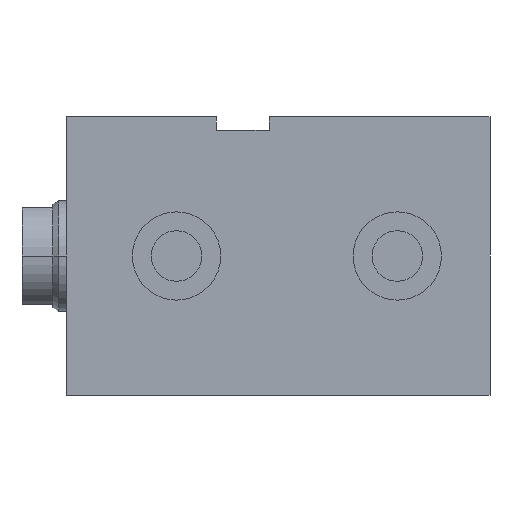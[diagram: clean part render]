
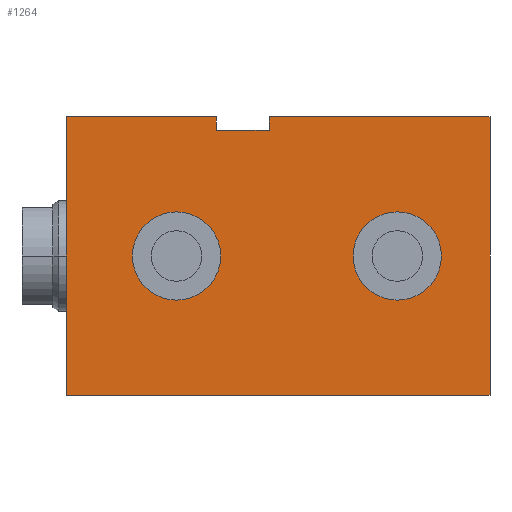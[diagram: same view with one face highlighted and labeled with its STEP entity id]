
A CAD part, left-side view. The second image highlights one B-rep face of the part: STEP entity #1264.
In plain terms, the highlighted planar face has unit normal (-1, 0, 0).
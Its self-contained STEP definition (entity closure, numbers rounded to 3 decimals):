
#7 = VERTEX_POINT ( 'NONE', #92 ) ;
#92 = CARTESIAN_POINT ( 'NONE',  ( -42.5, 21., 10. ) ) ;
#109 = VECTOR ( 'NONE', #635, 1000. ) ;
#118 = CARTESIAN_POINT ( 'NONE',  ( -42.5, 96., 31.5 ) ) ;
#128 = CARTESIAN_POINT ( 'NONE',  ( -42.5, 50., 31.5 ) ) ;
#151 = DIRECTION ( 'NONE',  ( 0., -1., 0. ) ) ;
#244 = ORIENTED_EDGE ( 'NONE', *, *, #420, .F. ) ;
#292 = FACE_BOUND ( 'NONE', #1769, .T. ) ;
#315 = VERTEX_POINT ( 'NONE', #346 ) ;
#326 = EDGE_CURVE ( 'NONE', #2013, #1746, #1220, .T. ) ;
#346 = CARTESIAN_POINT ( 'NONE',  ( -42.5, 50., 28.5 ) ) ;
#367 = DIRECTION ( 'NONE',  ( 0., 0., 1. ) ) ;
#374 = VERTEX_POINT ( 'NONE', #620 ) ;
#388 = CARTESIAN_POINT ( 'NONE',  ( -42.5, 71., 0. ) ) ;
#403 = CIRCLE ( 'NONE', #1675, 10. ) ;
#420 = EDGE_CURVE ( 'NONE', #1802, #2422, #939, .T. ) ;
#421 = EDGE_CURVE ( 'NONE', #2559, #1182, #403, .T. ) ;
#450 = CARTESIAN_POINT ( 'NONE',  ( -42.5, 96., -31.5 ) ) ;
#505 = CARTESIAN_POINT ( 'NONE',  ( -42.5, 0., 31.5 ) ) ;
#510 = LINE ( 'NONE', #525, #2812 ) ;
#525 = CARTESIAN_POINT ( 'NONE',  ( -42.5, 71., -31.5 ) ) ;
#527 = CARTESIAN_POINT ( 'NONE',  ( -42.5, 96., -31.5 ) ) ;
#558 = CIRCLE ( 'NONE', #2050, 10. ) ;
#589 = CARTESIAN_POINT ( 'NONE',  ( -42.5, 71., -10. ) ) ;
#597 = DIRECTION ( 'NONE',  ( -1., 0., 0. ) ) ;
#606 = ORIENTED_EDGE ( 'NONE', *, *, #791, .T. ) ;
#620 = CARTESIAN_POINT ( 'NONE',  ( -42.5, 62., 31.5 ) ) ;
#622 = DIRECTION ( 'NONE',  ( 0., 0., 1. ) ) ;
#635 = DIRECTION ( 'NONE',  ( 0., -1., 0. ) ) ;
#667 = CARTESIAN_POINT ( 'NONE',  ( -42.5, 21., -10. ) ) ;
#687 = CARTESIAN_POINT ( 'NONE',  ( -42.5, 62., 28.5 ) ) ;
#692 = VECTOR ( 'NONE', #2639, 1000. ) ;
#695 = EDGE_CURVE ( 'NONE', #2013, #1282, #510, .T. ) ;
#716 = LINE ( 'NONE', #1969, #109 ) ;
#720 = ORIENTED_EDGE ( 'NONE', *, *, #1533, .F. ) ;
#730 = DIRECTION ( 'NONE',  ( -1., 0., 0. ) ) ;
#791 = EDGE_CURVE ( 'NONE', #1282, #2422, #2020, .T. ) ;
#819 = ORIENTED_EDGE ( 'NONE', *, *, #2775, .F. ) ;
#826 = FACE_OUTER_BOUND ( 'NONE', #992, .T. ) ;
#858 = CARTESIAN_POINT ( 'NONE',  ( -42.5, 0., -31.5 ) ) ;
#931 = ORIENTED_EDGE ( 'NONE', *, *, #1355, .F. ) ;
#939 = LINE ( 'NONE', #1508, #2709 ) ;
#941 = DIRECTION ( 'NONE',  ( 0., 0., 1. ) ) ;
#944 = ORIENTED_EDGE ( 'NONE', *, *, #1295, .T. ) ;
#964 = VECTOR ( 'NONE', #941, 1000. ) ;
#965 = CARTESIAN_POINT ( 'NONE',  ( -42.5, 50., 28.5 ) ) ;
#992 = EDGE_LOOP ( 'NONE', ( #244, #2075, #1843, #944, #819, #1650, #2167, #606 ) ) ;
#1004 = ORIENTED_EDGE ( 'NONE', *, *, #421, .F. ) ;
#1039 = ORIENTED_EDGE ( 'NONE', *, *, #1238, .F. ) ;
#1087 = CARTESIAN_POINT ( 'NONE',  ( -42.5, 62., 28.5 ) ) ;
#1102 = DIRECTION ( 'NONE',  ( -1., 0., 0. ) ) ;
#1140 = VECTOR ( 'NONE', #1774, 1000. ) ;
#1182 = VERTEX_POINT ( 'NONE', #589 ) ;
#1191 = DIRECTION ( 'NONE',  ( 0., 0., 1. ) ) ;
#1220 = LINE ( 'NONE', #450, #1140 ) ;
#1238 = EDGE_CURVE ( 'NONE', #1182, #2559, #2227, .T. ) ;
#1264 = ADVANCED_FACE ( 'NONE', ( #826, #2532, #292 ), #1302, .F. ) ;
#1282 = VERTEX_POINT ( 'NONE', #858 ) ;
#1284 = LINE ( 'NONE', #1087, #692 ) ;
#1295 = EDGE_CURVE ( 'NONE', #2288, #374, #1284, .T. ) ;
#1302 = PLANE ( 'NONE',  #1962 ) ;
#1355 = EDGE_CURVE ( 'NONE', #2216, #7, #1663, .T. ) ;
#1367 = AXIS2_PLACEMENT_3D ( 'NONE', #388, #1958, #622 ) ;
#1441 = VECTOR ( 'NONE', #151, 1000. ) ;
#1508 = CARTESIAN_POINT ( 'NONE',  ( -42.5, 71., 31.5 ) ) ;
#1512 = DIRECTION ( 'NONE',  ( 1., 0., 0. ) ) ;
#1533 = EDGE_CURVE ( 'NONE', #7, #2216, #558, .T. ) ;
#1544 = LINE ( 'NONE', #965, #2062 ) ;
#1616 = CARTESIAN_POINT ( 'NONE',  ( -42.5, 0., -31.5 ) ) ;
#1644 = EDGE_CURVE ( 'NONE', #315, #1802, #1544, .T. ) ;
#1650 = ORIENTED_EDGE ( 'NONE', *, *, #326, .F. ) ;
#1663 = CIRCLE ( 'NONE', #2696, 10. ) ;
#1669 = CARTESIAN_POINT ( 'NONE',  ( -42.5, 71., 10. ) ) ;
#1675 = AXIS2_PLACEMENT_3D ( 'NONE', #2160, #597, #367 ) ;
#1715 = CARTESIAN_POINT ( 'NONE',  ( -42.5, 71., 31.5 ) ) ;
#1746 = VERTEX_POINT ( 'NONE', #118 ) ;
#1769 = EDGE_LOOP ( 'NONE', ( #1004, #1039 ) ) ;
#1774 = DIRECTION ( 'NONE',  ( 0., 0., 1. ) ) ;
#1802 = VERTEX_POINT ( 'NONE', #128 ) ;
#1843 = ORIENTED_EDGE ( 'NONE', *, *, #2836, .F. ) ;
#1958 = DIRECTION ( 'NONE',  ( -1., 0., 0. ) ) ;
#1962 = AXIS2_PLACEMENT_3D ( 'NONE', #2402, #1512, #2849 ) ;
#1969 = CARTESIAN_POINT ( 'NONE',  ( -42.5, 62., 28.5 ) ) ;
#2013 = VERTEX_POINT ( 'NONE', #527 ) ;
#2020 = LINE ( 'NONE', #1616, #964 ) ;
#2036 = LINE ( 'NONE', #1715, #1441 ) ;
#2050 = AXIS2_PLACEMENT_3D ( 'NONE', #2060, #730, #2286 ) ;
#2060 = CARTESIAN_POINT ( 'NONE',  ( -42.5, 21., 0. ) ) ;
#2062 = VECTOR ( 'NONE', #1191, 1000. ) ;
#2075 = ORIENTED_EDGE ( 'NONE', *, *, #1644, .F. ) ;
#2077 = DIRECTION ( 'NONE',  ( 0., -1., 0. ) ) ;
#2160 = CARTESIAN_POINT ( 'NONE',  ( -42.5, 71., 0. ) ) ;
#2167 = ORIENTED_EDGE ( 'NONE', *, *, #695, .T. ) ;
#2172 = DIRECTION ( 'NONE',  ( 0., -1., 0. ) ) ;
#2216 = VERTEX_POINT ( 'NONE', #667 ) ;
#2227 = CIRCLE ( 'NONE', #1367, 10. ) ;
#2286 = DIRECTION ( 'NONE',  ( 0., 0., 1. ) ) ;
#2287 = EDGE_LOOP ( 'NONE', ( #720, #931 ) ) ;
#2288 = VERTEX_POINT ( 'NONE', #687 ) ;
#2402 = CARTESIAN_POINT ( 'NONE',  ( -42.5, 71., -31.5 ) ) ;
#2422 = VERTEX_POINT ( 'NONE', #505 ) ;
#2448 = CARTESIAN_POINT ( 'NONE',  ( -42.5, 21., 0. ) ) ;
#2532 = FACE_BOUND ( 'NONE', #2287, .T. ) ;
#2559 = VERTEX_POINT ( 'NONE', #1669 ) ;
#2639 = DIRECTION ( 'NONE',  ( 0., 0., 1. ) ) ;
#2663 = DIRECTION ( 'NONE',  ( 0., 0., 1. ) ) ;
#2696 = AXIS2_PLACEMENT_3D ( 'NONE', #2448, #1102, #2663 ) ;
#2709 = VECTOR ( 'NONE', #2172, 1000. ) ;
#2775 = EDGE_CURVE ( 'NONE', #1746, #374, #2036, .T. ) ;
#2812 = VECTOR ( 'NONE', #2077, 1000. ) ;
#2836 = EDGE_CURVE ( 'NONE', #2288, #315, #716, .T. ) ;
#2849 = DIRECTION ( 'NONE',  ( 0., 0., -1. ) ) ;
